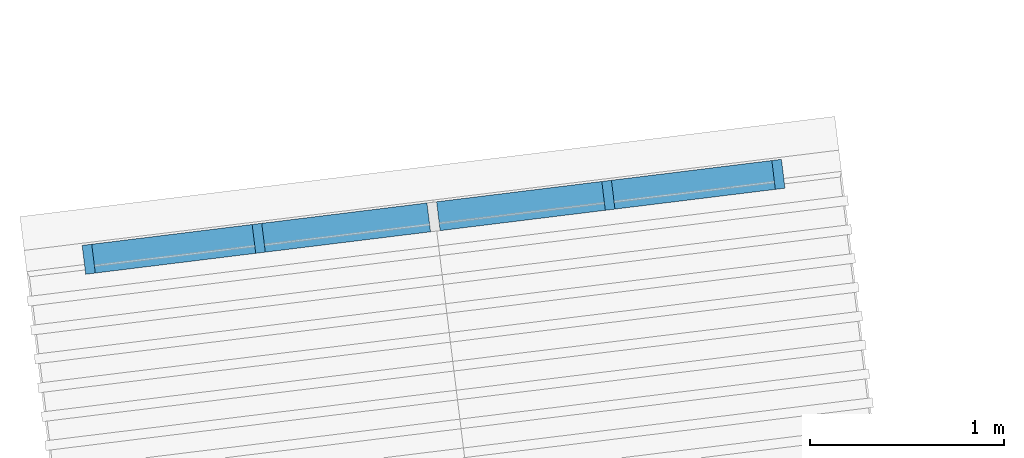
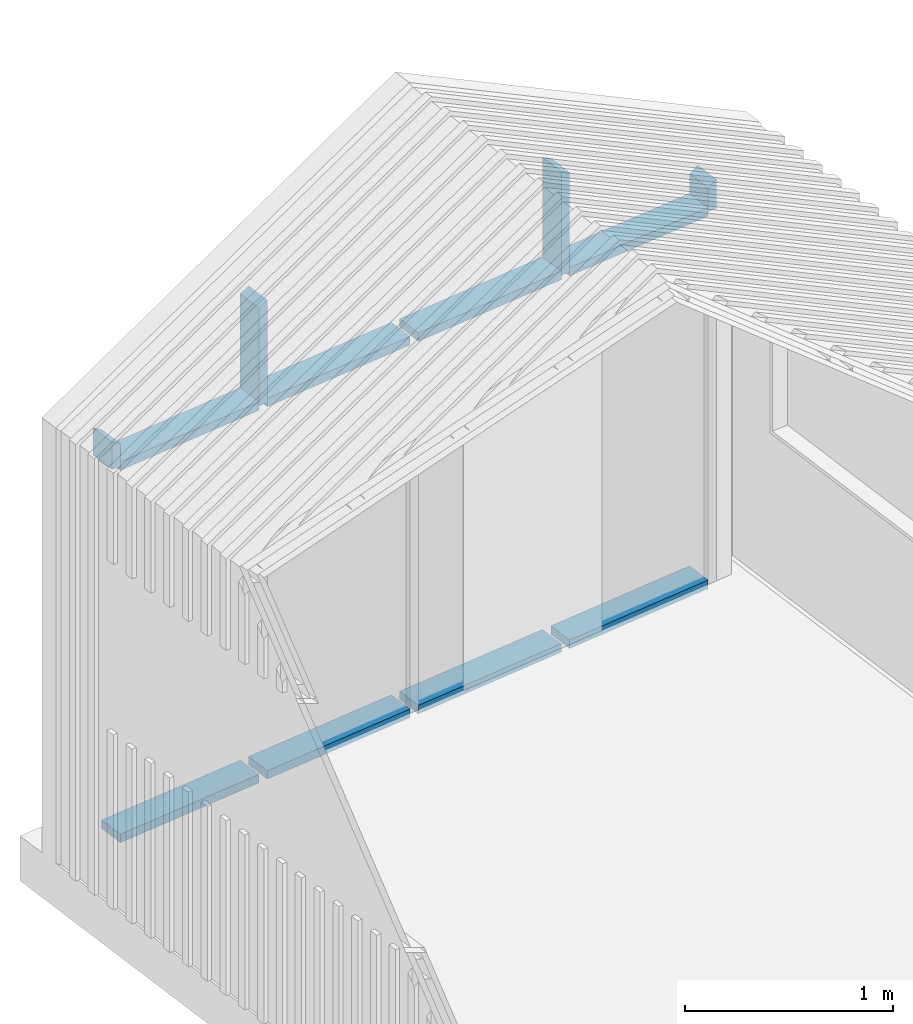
# One storey, part 6 of 75: 12 members, 1 element without a shape of its own.
"""IFC2X3 building model written with IfcOpenShell, lengths in metres."""

from ifc_helpers import new_model, entity, si_unit, converted_unit, derived_unit, direction, frame, origin, origin_2d_with_axis, place, context, subcontext, project, spatial, polyline, rectangle, extrude, clip, halfspace, bounded_halfspace, source, transform, mapped, material, type_object, type_shapes, element, aggregate, save


model = new_model("IFC2X3")

# Units and contexts
model_context = context("Model", 3, precision=1e-05, world=origin(), true_north=direction((6.123031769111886e-17, 1.0)))
body_context = subcontext(model_context, "Body", "Model", "MODEL_VIEW")
ifc_project = project(units=[si_unit("LENGTHUNIT", "METRE"), si_unit("AREAUNIT", "SQUARE_METRE"), si_unit("VOLUMEUNIT", "CUBIC_METRE"), converted_unit("PLANEANGLEUNIT", "DEGREE", entity("IfcRatioMeasure", 0.017453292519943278), si_unit("PLANEANGLEUNIT", "RADIAN"), dimensions=[0, 0, 0, 0, 0, 0, 0]), si_unit("MASSUNIT", "GRAM", prefix="KILO"), derived_unit("MASSDENSITYUNIT", [(si_unit("MASSUNIT", "GRAM", prefix="KILO"), 1), (si_unit("LENGTHUNIT", "METRE"), -3)]), derived_unit("IONCONCENTRATIONUNIT", [(si_unit("MASSUNIT", "GRAM", prefix="KILO"), 1), (si_unit("LENGTHUNIT", "METRE"), -3)]), derived_unit("MOMENTOFINERTIAUNIT", [(si_unit("LENGTHUNIT", "METRE"), 4)]), si_unit("TIMEUNIT", "SECOND"), si_unit("FREQUENCYUNIT", "HERTZ"), si_unit("THERMODYNAMICTEMPERATUREUNIT", "DEGREE_CELSIUS"), derived_unit("THERMALTRANSMITTANCEUNIT", [(si_unit("MASSUNIT", "GRAM", prefix="KILO"), 1), (si_unit("THERMODYNAMICTEMPERATUREUNIT", "KELVIN"), -1), (si_unit("TIMEUNIT", "SECOND"), -3)]), derived_unit("THERMALCONDUCTANCEUNIT", [(si_unit("MASSUNIT", "GRAM", prefix="KILO"), 1), (si_unit("THERMODYNAMICTEMPERATUREUNIT", "KELVIN"), -1), (si_unit("TIMEUNIT", "SECOND"), -3), (si_unit("LENGTHUNIT", "METRE"), 1)]), derived_unit("VOLUMETRICFLOWRATEUNIT", [(si_unit("LENGTHUNIT", "METRE"), 3), (si_unit("TIMEUNIT", "SECOND"), -1)]), derived_unit("MASSFLOWRATEUNIT", [(si_unit("MASSUNIT", "GRAM", prefix="KILO"), 1), (si_unit("TIMEUNIT", "SECOND"), -1)]), derived_unit("ROTATIONALFREQUENCYUNIT", [(si_unit("TIMEUNIT", "SECOND"), -1)]), si_unit("ELECTRICCURRENTUNIT", "AMPERE"), si_unit("ELECTRICVOLTAGEUNIT", "VOLT"), si_unit("POWERUNIT", "WATT"), si_unit("FORCEUNIT", "NEWTON", prefix="KILO"), si_unit("ILLUMINANCEUNIT", "LUX"), si_unit("LUMINOUSFLUXUNIT", "LUMEN"), si_unit("LUMINOUSINTENSITYUNIT", "CANDELA"), derived_unit("USERDEFINED", [(si_unit("MASSUNIT", "GRAM", prefix="KILO"), -1), (si_unit("LENGTHUNIT", "METRE"), -2), (si_unit("TIMEUNIT", "SECOND"), 3), (si_unit("LUMINOUSFLUXUNIT", "LUMEN"), 1)]), derived_unit("USERDEFINED", [(si_unit("MASSUNIT", "GRAM", prefix="KILO"), 1), (si_unit("TIMEUNIT", "SECOND"), -3), (si_unit("LENGTHUNIT", "METRE"), 3), (si_unit("ELECTRICCURRENTUNIT", "AMPERE"), -2)]), derived_unit("SOUNDPOWERUNIT", [(si_unit("MASSUNIT", "GRAM", prefix="KILO"), 1), (si_unit("TIMEUNIT", "SECOND"), -3), (si_unit("LENGTHUNIT", "METRE"), 2)]), derived_unit("SOUNDPRESSUREUNIT", [(si_unit("MASSUNIT", "GRAM", prefix="KILO"), 1), (si_unit("LENGTHUNIT", "METRE"), -1), (si_unit("TIMEUNIT", "SECOND"), -2)]), derived_unit("LINEARVELOCITYUNIT", [(si_unit("LENGTHUNIT", "METRE"), 1), (si_unit("TIMEUNIT", "SECOND"), -1)]), si_unit("PRESSUREUNIT", "PASCAL"), derived_unit("USERDEFINED", [(si_unit("MASSUNIT", "GRAM", prefix="KILO"), 1), (si_unit("LENGTHUNIT", "METRE"), -2), (si_unit("TIMEUNIT", "SECOND"), -2)]), derived_unit("LINEARFORCEUNIT", [(si_unit("MASSUNIT", "GRAM", prefix="KILO"), 1), (si_unit("TIMEUNIT", "SECOND"), -2)]), derived_unit("PLANARFORCEUNIT", [(si_unit("MASSUNIT", "GRAM", prefix="KILO"), 1), (si_unit("LENGTHUNIT", "METRE"), -1), (si_unit("TIMEUNIT", "SECOND"), -2)]), derived_unit("SPECIFICHEATCAPACITYUNIT", [(si_unit("THERMODYNAMICTEMPERATUREUNIT", "KELVIN"), -1), (si_unit("LENGTHUNIT", "METRE"), 2), (si_unit("TIMEUNIT", "SECOND"), -2)]), derived_unit("HEATINGVALUEUNIT", [(si_unit("LENGTHUNIT", "METRE"), 2), (si_unit("TIMEUNIT", "SECOND"), -2)]), derived_unit("VAPORPERMEABILITYUNIT", [(si_unit("LENGTHUNIT", "METRE"), -1), (si_unit("TIMEUNIT", "SECOND"), 1)]), derived_unit("DYNAMICVISCOSITYUNIT", [(si_unit("MASSUNIT", "GRAM", prefix="KILO"), 1), (si_unit("TIMEUNIT", "SECOND"), -1), (si_unit("LENGTHUNIT", "METRE"), -1)]), derived_unit("THERMALEXPANSIONCOEFFICIENTUNIT", [(si_unit("THERMODYNAMICTEMPERATUREUNIT", "KELVIN"), -1)]), derived_unit("MODULUSOFELASTICITYUNIT", [(si_unit("MASSUNIT", "GRAM", prefix="KILO"), 1), (si_unit("LENGTHUNIT", "METRE"), -1), (si_unit("TIMEUNIT", "SECOND"), -2)]), derived_unit("ISOTHERMALMOISTURECAPACITYUNIT", [(si_unit("LENGTHUNIT", "METRE"), 3), (si_unit("MASSUNIT", "GRAM", prefix="KILO"), -1)]), derived_unit("MOISTUREDIFFUSIVITYUNIT", [(si_unit("TIMEUNIT", "SECOND"), -1), (si_unit("LENGTHUNIT", "METRE"), 2)])], contexts=[model_context])

# Site, building, storey
site_placement = place(None, origin())
site = spatial("IfcSite", under=ifc_project, at=site_placement, Name="Default", CompositionType="ELEMENT")
building_placement = place(site_placement, origin())
building = spatial("IfcBuilding", under=site, at=building_placement, Name="Projeto", CompositionType="ELEMENT")
storey_placement = place(building_placement, origin())
storey = spatial("IfcBuildingStorey", under=building, at=storey_placement, Name="Nível 1", CompositionType="ELEMENT", Elevation=0.0)

# Curtain wall, members
curtain_wall_type = type_object("IfcCurtainWallType", Name="Parede cortina:Vitrine", PredefinedType="NOTDEFINED")
curtain_wall_placement = place(storey_placement, origin())
curtain_wall = element("IfcCurtainWall", 1, at=curtain_wall_placement, inside=storey, type_object=curtain_wall_type, Name="Parede cortina:Vitrine", ObjectType="Parede cortina:Vitrine")
ifc_material = material(Name="Alumín.")
member_type_1 = type_object("IfcMemberType", Name="Montante retangular:50 x 150mm", PredefinedType="MULLION", material=ifc_material)
shared_shape_1 = source(origin(), body_context, "Body", "SweptSolid", [
    extrude(rectangle(XDim=0.14999999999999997, YDim=0.05, at=origin_2d_with_axis()), frame((-0.025, 0.0, -0.8337612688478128), z_axis=(0.0, 0.0, 1.0), x_axis=(0.0, -1.0, 0.0)), (0.0, 0.0, 1.0), 0.8337612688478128),
])
type_shapes(member_type_1, [shared_shape_1])
member_1_placement = place(curtain_wall_placement, frame((-150.65185768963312, 78.27390202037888, -2.6049999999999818), z_axis=(0.9925113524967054, 0.12215242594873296, 0.0), x_axis=(0.0, 0.0, -1.0)))
member_1 = element("IfcMember", 2, at=member_1_placement, type_object=member_type_1, material=ifc_material, Name="Montante retangular:50 x 150mm", ObjectType="Montante retangular:50 x 150mm", context=body_context, shape_type="MappedRepresentation", body=[
    mapped(shared_shape_1, transform((0.0, 0.0, 0.0), scale=1.0)),
])
member_2_placement = place(curtain_wall_placement, frame((-153.33291253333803, 77.94393365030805, -2.6049999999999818), z_axis=(0.9925113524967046, 0.1221524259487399, 0.0), x_axis=(0.0, 0.0, -1.0)))
member_2 = element("IfcMember", 3, at=member_2_placement, type_object=member_type_1, material=ifc_material, Name="Montante retangular:50 x 150mm", ObjectType="Montante retangular:50 x 150mm", context=body_context, shape_type="MappedRepresentation", body=[
    mapped(shared_shape_1, transform((0.0, 0.0, 0.0), scale=1.0)),
])
member_type_2 = type_object("IfcMemberType", Name="Montante retangular:50 x 150mm", PredefinedType="MULLION", material=ifc_material)
shared_shape_2 = source(origin(), body_context, "Body", "SweptSolid", [
    extrude(rectangle(XDim=0.14999999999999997, YDim=0.05, at=origin_2d_with_axis()), frame((-0.025, 0.0, -0.858761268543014), z_axis=(0.0, 0.0, 1.0), x_axis=(0.0, -1.0, 0.0)), (0.0, 0.0, 1.0), 0.858761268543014),
])
type_shapes(member_type_2, [shared_shape_2])
member_3_placement = place(curtain_wall_placement, frame((-151.52900078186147, 78.16594843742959, -2.6049999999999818), z_axis=(0.9925113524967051, 0.1221524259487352, 0.0), x_axis=(0.0, 0.0, -1.0)))
member_3 = element("IfcMember", 4, at=member_3_placement, type_object=member_type_2, material=ifc_material, Name="Montante retangular:50 x 150mm", ObjectType="Montante retangular:50 x 150mm", context=body_context, shape_type="MappedRepresentation", body=[
    mapped(shared_shape_2, transform((0.0, 0.0, 0.0), scale=1.0)),
])
member_4_placement = place(curtain_wall_placement, frame((-152.43095665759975, 78.05494104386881, -2.6049999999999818), z_axis=(0.9925113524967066, 0.12215242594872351, 0.0), x_axis=(0.0, 0.0, -1.0)))
member_4 = element("IfcMember", 5, at=member_4_placement, type_object=member_type_2, material=ifc_material, Name="Montante retangular:50 x 150mm", ObjectType="Montante retangular:50 x 150mm", context=body_context, shape_type="MappedRepresentation", body=[
    mapped(shared_shape_2, transform((0.0, 0.0, 0.0), scale=1.0)),
])
member_type_3 = type_object("IfcMemberType", Name="Montante retangular:50 x 150mm", PredefinedType="MULLION", material=ifc_material)
shared_shape_3 = source(origin(), body_context, "Body", "SweptSolid", [
    clip(clip(extrude(rectangle(XDim=0.14999999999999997, YDim=0.05, at=origin_2d_with_axis()), frame((0.0, 0.0, -0.6097128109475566), z_axis=(0.0, 0.0, 1.0), x_axis=(0.0, -1.0, 0.0)), (0.0, 0.0, 1.0), 0.6097128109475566), bounded_halfspace(frame((0.9249729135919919, 0.07499999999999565, -1.0882368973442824), z_axis=(-0.46947156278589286, 0.0, -0.8829475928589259), x_axis=(-0.8829475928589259, 0.0, 0.46947156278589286)), False, frame((0.0, 0.0, -0.6097128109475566), z_axis=(0.0, 0.0, 1.0), x_axis=(0.0, -1.0, 0.0)), polyline([(-0.07499999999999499, 0.025), (0.07499999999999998, 0.025), (0.07499999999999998, 0.023473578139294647), (-0.07499999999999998, 0.0234735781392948), (-0.07499999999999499, 0.025)]))), bounded_halfspace(frame((0.023473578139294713, 0.07499999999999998, -0.6089011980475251), z_axis=(-0.4694715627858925, 0.0, -0.8829475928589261), x_axis=(-0.8829475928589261, 0.0, 0.4694715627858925)), False, frame((0.0, 0.0, -0.6097128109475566), z_axis=(0.0, 0.0, 1.0), x_axis=(0.0, -1.0, 0.0)), polyline([(0.07499999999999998, 0.023473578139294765), (0.07499999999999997, -0.025), (-0.07499999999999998, -0.025), (-0.07499999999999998, 0.023473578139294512), (0.07499999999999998, 0.023473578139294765)]))),
])
type_shapes(member_type_3, [shared_shape_3])
member_5_placement = place(curtain_wall_placement, frame((-151.50418799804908, 78.16900224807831, -0.39703155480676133), z_axis=(0.0, 0.0, -1.0), x_axis=(-0.9925113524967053, -0.12215242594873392, 0.0)))
member_5 = element("IfcMember", 6, at=member_5_placement, type_object=member_type_3, material=ifc_material, Name="Montante retangular:50 x 150mm", ObjectType="Montante retangular:50 x 150mm", context=body_context, shape_type="MappedRepresentation", body=[
    mapped(shared_shape_3, transform((0.0, 0.0, 0.0), scale=1.0)),
])
member_type_4 = type_object("IfcMemberType", Name="Montante retangular:50 x 150mm", PredefinedType="MULLION", material=ifc_material)
shared_shape_4 = source(origin(), body_context, "Body", "SweptSolid", [
    extrude(rectangle(XDim=0.15, YDim=0.05, at=origin_2d_with_axis()), frame((0.0, 0.0, -0.8337612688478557), z_axis=(0.0, 0.0, 1.0), x_axis=(0.0, -1.0, 0.0)), (0.0, 0.0, 1.0), 0.8337612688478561),
])
type_shapes(member_type_4, [shared_shape_4])
member_6_placement = place(curtain_wall_placement, frame((-151.47937521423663, 78.17205605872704, -0.39703155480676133), z_axis=(-0.9925113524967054, -0.12215242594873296, 0.0), x_axis=(0.0, 0.0, 1.0)))
member_6 = element("IfcMember", 7, at=member_6_placement, type_object=member_type_4, material=ifc_material, Name="Montante retangular:50 x 150mm", ObjectType="Montante retangular:50 x 150mm", context=body_context, shape_type="MappedRepresentation", body=[
    mapped(shared_shape_4, transform((0.0, 0.0, 0.0), scale=1.0)),
])
member_7_placement = place(curtain_wall_placement, frame((-154.1604300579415, 77.8420876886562, -0.39703155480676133), z_axis=(-0.9925113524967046, -0.1221524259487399, 0.0), x_axis=(0.0, 0.0, 1.0)))
member_7 = element("IfcMember", 8, at=member_7_placement, type_object=member_type_4, material=ifc_material, Name="Montante retangular:50 x 150mm", ObjectType="Montante retangular:50 x 150mm", context=body_context, shape_type="MappedRepresentation", body=[
    mapped(shared_shape_4, transform((0.0, 0.0, 0.0), scale=1.0)),
])
member_type_5 = type_object("IfcMemberType", Name="Montante retangular:50 x 150mm", PredefinedType="MULLION", material=ifc_material)
shared_shape_5 = source(origin(), body_context, "Body", "SweptSolid", [
    extrude(rectangle(XDim=0.14999999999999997, YDim=0.05, at=origin_2d_with_axis()), frame((0.0, 0.0, -0.8587612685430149), z_axis=(0.0, 0.0, 1.0), x_axis=(0.0, -1.0, 0.0)), (0.0, 0.0, 1.0), 0.8587612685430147),
])
type_shapes(member_type_5, [shared_shape_5])
member_8_placement = place(curtain_wall_placement, frame((-152.38133108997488, 78.06104866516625, -0.39703155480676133), z_axis=(-0.9925113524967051, -0.1221524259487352, 0.0), x_axis=(0.0, 0.0, 1.0)))
member_8 = element("IfcMember", 9, at=member_8_placement, type_object=member_type_5, material=ifc_material, Name="Montante retangular:50 x 150mm", ObjectType="Montante retangular:50 x 150mm", context=body_context, shape_type="MappedRepresentation", body=[
    mapped(shared_shape_5, transform((0.0, 0.0, 0.0), scale=1.0)),
])
member_9_placement = place(curtain_wall_placement, frame((-153.28328696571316, 77.9500412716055, -0.39703155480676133), z_axis=(-0.9925113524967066, -0.12215242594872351, 0.0), x_axis=(0.0, 0.0, 1.0)))
member_9 = element("IfcMember", 10, at=member_9_placement, type_object=member_type_5, material=ifc_material, Name="Montante retangular:50 x 150mm", ObjectType="Montante retangular:50 x 150mm", context=body_context, shape_type="MappedRepresentation", body=[
    mapped(shared_shape_5, transform((0.0, 0.0, 0.0), scale=1.0)),
])
member_type_6 = type_object("IfcMemberType", Name="Montante retangular:50 x 150mm", PredefinedType="MULLION", material=ifc_material)
shared_shape_6 = source(origin(), body_context, "Body", "SweptSolid", [
    clip(clip(extrude(rectangle(XDim=0.14999999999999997, YDim=0.05, at=origin_2d_with_axis()), frame((0.0, 0.0, -0.6019903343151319), z_axis=(0.0, 0.0, 1.0), x_axis=(0.0, -1.0, 0.0)), (0.0, 0.0, 1.0), 0.6019903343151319), bounded_halfspace(frame((-0.023473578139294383, 0.07499999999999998, -0.6011787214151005), z_axis=(0.46947156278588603, 0.0, -0.8829475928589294), x_axis=(-0.8829475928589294, 0.0, -0.46947156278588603)), False, frame((0.0, 0.0, -0.6019903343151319), z_axis=(0.0, 0.0, 1.0), x_axis=(0.0, -1.0, 0.0)), polyline([(0.07499999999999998, -0.023473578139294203), (0.07499999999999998, -0.025), (-0.07499999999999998, -0.025), (-0.07499999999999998, -0.023473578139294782), (0.07499999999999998, -0.023473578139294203)]))), bounded_halfspace(frame((0.8852876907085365, 0.07500000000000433, -0.11798178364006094), z_axis=(0.46947156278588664, 0.0, -0.8829475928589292), x_axis=(-0.8829475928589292, 0.0, -0.46947156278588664)), False, frame((0.0, 0.0, -0.6019903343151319), z_axis=(0.0, 0.0, 1.0), x_axis=(0.0, -1.0, 0.0)), polyline([(-0.07500000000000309, 0.025), (0.07499999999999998, 0.025), (0.07499999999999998, -0.023473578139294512), (-0.07499999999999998, -0.0234735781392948), (-0.07500000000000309, 0.025)]))),
])
type_shapes(member_type_6, [shared_shape_6])
member_10_placement = place(curtain_wall_placement, frame((-153.30809974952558, 77.94698746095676, -0.39703155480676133), z_axis=(0.0, 0.0, -1.0), x_axis=(-0.9925113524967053, -0.12215242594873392, 0.0)))
member_10 = element("IfcMember", 11, at=member_10_placement, type_object=member_type_6, material=ifc_material, Name="Montante retangular:50 x 150mm", ObjectType="Montante retangular:50 x 150mm", context=body_context, shape_type="MappedRepresentation", body=[
    mapped(shared_shape_6, transform((0.0, 0.0, 0.0), scale=1.0)),
])
member_type_7 = type_object("IfcMemberType", Name="Montante retangular:50 x 150mm", PredefinedType="MULLION", material=ifc_material)
shared_shape_7 = source(origin(), body_context, "Body", "SweptSolid", [
    clip(extrude(rectangle(XDim=0.14999999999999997, YDim=0.05, at=origin_2d_with_axis()), frame((-0.025, 0.0, -0.16985163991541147), z_axis=(0.0, 0.0, 1.0), x_axis=(0.0, -1.0, 0.0)), (0.0, 0.0, 1.0), 0.1698516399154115), halfspace(frame((0.0, -0.3048, 0.0), z_axis=(-0.5150380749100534, 0.0, 0.8571673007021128), x_axis=(-0.8571673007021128, 0.0, -0.5150380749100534)), False)),
])
type_shapes(member_type_7, [shared_shape_7])
member_11_placement = place(curtain_wall_placement, frame((-150.60223212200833, 78.28000964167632, -0.22717991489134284), z_axis=(0.0, 0.0, 1.0), x_axis=(0.9925113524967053, 0.12215242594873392, 0.0)))
member_11 = element("IfcMember", 12, at=member_11_placement, type_object=member_type_7, material=ifc_material, Name="Montante retangular:50 x 150mm", ObjectType="Montante retangular:50 x 150mm", context=body_context, shape_type="MappedRepresentation", body=[
    mapped(shared_shape_7, transform((0.0, 0.0, 0.0), scale=1.0)),
])
member_type_8 = type_object("IfcMemberType", Name="Montante retangular:50 x 150mm", PredefinedType="MULLION", material=ifc_material)
shared_shape_8 = source(origin(), body_context, "Body", "SweptSolid", [
    clip(extrude(rectangle(XDim=0.14999999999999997, YDim=0.05, at=origin_2d_with_axis()), frame((-0.025, 0.0, -0.16212916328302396), z_axis=(0.0, 0.0, 1.0), x_axis=(0.0, -1.0, 0.0)), (0.0, 0.0, 1.0), 0.16212916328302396), halfspace(frame((0.0, -0.30479999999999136, -0.16212916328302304), z_axis=(-0.5150380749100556, 0.0, -0.8571673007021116), x_axis=(-0.8571673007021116, 0.0, 0.5150380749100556)), False)),
])
type_shapes(member_type_8, [shared_shape_8])
member_12_placement = place(curtain_wall_placement, frame((-154.21005562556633, 77.83598006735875, -0.39703155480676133), z_axis=(0.0, 0.0, -1.0), x_axis=(-0.9925113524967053, -0.12215242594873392, 0.0)))
member_12 = element("IfcMember", 13, at=member_12_placement, type_object=member_type_8, material=ifc_material, Name="Montante retangular:50 x 150mm", ObjectType="Montante retangular:50 x 150mm", context=body_context, shape_type="MappedRepresentation", body=[
    mapped(shared_shape_8, transform((0.0, 0.0, 0.0), scale=1.0)),
])
aggregate(curtain_wall, [member_1, member_3, member_4, member_5, member_6, member_8, member_9, member_2, member_7, member_10, member_11, member_12])

save(model, "model.ifc")
